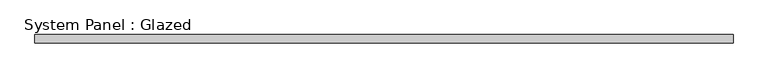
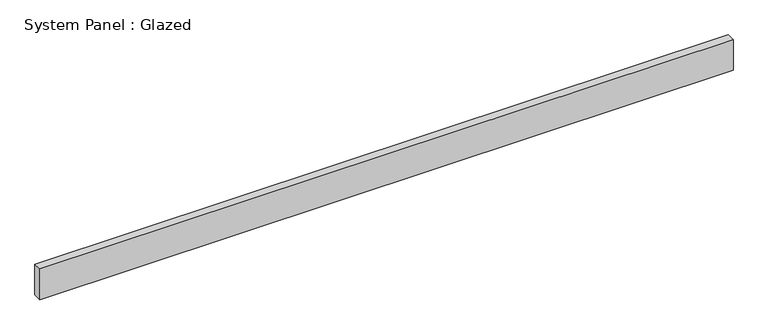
"""IFC4 building model written with IfcOpenShell, lengths in millimetres: plate geometry, System Panel : Glazed."""

from ifc_helpers import new_model, si_unit, origin, origin_with_axes, place, context, project, spatial, polyline, outline, extrude, source, transform, mapped, element, save


def system_panel_glazed_c5db4c66(model_context):
    return source(origin(), model_context, "Body", "SweptSolid", [
        extrude(outline(polyline([(1047.75, 19.05), (-1047.75, 19.05), (-1047.75, 44.45), (1047.75, 44.45), (1047.75, 19.05)])), origin_with_axes(), (0.0, 0.0, 1.0), 98.3039978),
    ])


if __name__ == "__main__":
    model = new_model("IFC4")
    model_context = context("Model", 3, world=origin())
    ifc_project = project(units=[si_unit("LENGTHUNIT", "METRE", prefix="MILLI")], contexts=[model_context])
    site = spatial("IfcSite", under=ifc_project)
    building = spatial("IfcBuilding", under=site)
    placement = place(None, origin())
    system_panel_glazed_shape = system_panel_glazed_c5db4c66(model_context)
    element("IfcPlate", 1, ObjectType="System Panel : Glazed", at=placement, inside=building, context=model_context, shape_type="MappedRepresentation", body=[
        mapped(system_panel_glazed_shape, transform((0.0, 0.0, 0.0), x_axis=(1.0, 0.0, 0.0), y_axis=(0.0, 1.0, 0.0), z_axis=(0.0, 0.0, 1.0))),
    ])
    save(model, "model.ifc")
